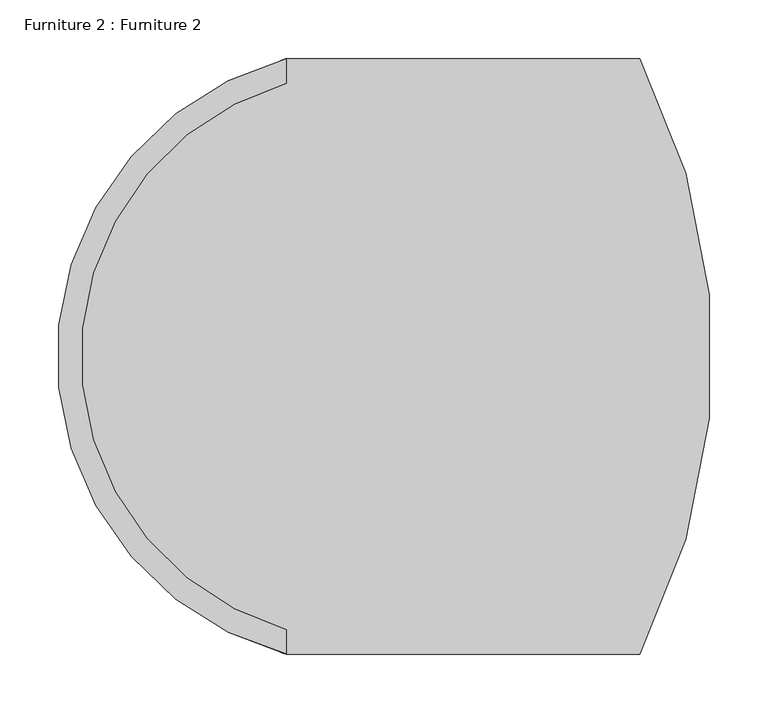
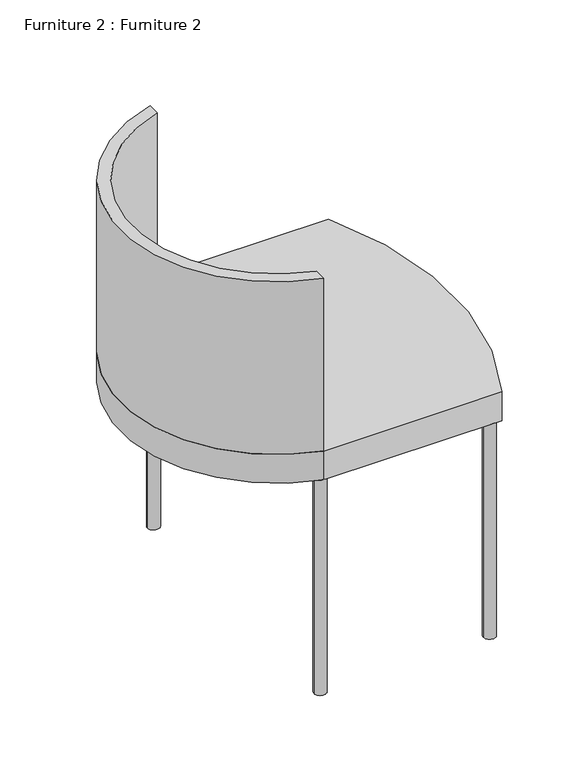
"""IFC4 building model written with IfcOpenShell, lengths in millimetres: furniture geometry, Furniture 2 : Furniture 2."""

from ifc_helpers import new_model, si_unit, point, frame, frame_2d, origin, place, context, project, spatial, polyline, circle_curve, trimmed, segment, composite_curve, outline, extrude, source, transform, mapped, element, save


def furniture_2_furniture_2_741ce5a0(model_context):
    return source(origin(), model_context, "Body", "SweptSolid", [
        extrude(outline(composite_curve([segment(trimmed(circle_curve(frame_2d((-3061.3479482, 1605.2555648)), 10.3724162), [point((-3050.9755319, 1605.2555648))], [point((-3071.7203644, 1605.2555648))], False, "CARTESIAN"), True, "CONTINUOUS"), segment(trimmed(circle_curve(frame_2d((-3061.3479482, 1605.2555648)), 10.3724162), [point((-3071.7203644, 1605.2555648))], [point((-3050.9755319, 1605.2555648))], False, "CARTESIAN"), True, "CONTINUOUS")], self_intersect=False)), frame((0.0, 0.0, 6510.0), z_axis=(0.0, 0.0, 1.0), x_axis=(1.0, 0.0, 0.0)), (0.0, 0.0, 1.0), 382.3163307),
        extrude(outline(composite_curve([segment(trimmed(circle_curve(frame_2d((-3061.3479482, 2090.2168417)), 10.3724162), [point((-3050.9755319, 2090.2168417))], [point((-3071.7203644, 2090.2168417))], False, "CARTESIAN"), True, "CONTINUOUS"), segment(trimmed(circle_curve(frame_2d((-3061.3479482, 2090.2168417)), 10.3724162), [point((-3071.7203644, 2090.2168417))], [point((-3050.9755319, 2090.2168417))], False, "CARTESIAN"), True, "CONTINUOUS")], self_intersect=False)), frame((0.0, 0.0, 6510.0), z_axis=(0.0, 0.0, 1.0), x_axis=(1.0, 0.0, 0.0)), (0.0, 0.0, 1.0), 382.3163307),
        extrude(outline(composite_curve([segment(trimmed(circle_curve(frame_2d((-2776.3479482, 1605.2555648)), 10.3724162), [point((-2765.9755319, 1605.2555648))], [point((-2786.7203644, 1605.2555648))], False, "CARTESIAN"), True, "CONTINUOUS"), segment(trimmed(circle_curve(frame_2d((-2776.3479482, 1605.2555648)), 10.3724162), [point((-2786.7203644, 1605.2555648))], [point((-2765.9755319, 1605.2555648))], False, "CARTESIAN"), True, "CONTINUOUS")], self_intersect=False)), frame((0.0, 0.0, 6510.0), z_axis=(0.0, 0.0, 1.0), x_axis=(1.0, 0.0, 0.0)), (0.0, 0.0, 1.0), 382.3163307),
        extrude(outline(composite_curve([segment(trimmed(circle_curve(frame_2d((-2776.3479482, 2090.2168417)), 10.3724162), [point((-2765.9755319, 2090.2168417))], [point((-2786.7203644, 2090.2168417))], False, "CARTESIAN"), True, "CONTINUOUS"), segment(trimmed(circle_curve(frame_2d((-2776.3479482, 2090.2168417)), 10.3724162), [point((-2786.7203644, 2090.2168417))], [point((-2765.9755319, 2090.2168417))], False, "CARTESIAN"), True, "CONTINUOUS")], self_intersect=False)), frame((0.0, 0.0, 6510.0), z_axis=(0.0, 0.0, 1.0), x_axis=(1.0, 0.0, 0.0)), (0.0, 0.0, 1.0), 382.3163307),
        extrude(outline(composite_curve([segment(trimmed(circle_curve(frame_2d((-2994.6145845, 1847.7362032)), 261.5110114), [point((-3061.3479482, 1594.8831485))], [point((-3061.3479482, 2100.5892579))], False, "CARTESIAN"), True, "CONTINUOUS"), segment(polyline([(-3061.3479482, 2100.5892579), (-2761.3479482, 2100.5892579)]), True, "CONTINUOUS"), segment(trimmed(circle_curve(frame_2d((-3248.9582299, 1847.7362032)), 549.2708386), [point((-2761.3479482, 2100.5892579))], [point((-2761.3479482, 1594.8831485))], False, "CARTESIAN"), True, "CONTINUOUS"), segment(polyline([(-2761.3479482, 1594.8831485), (-3061.3479482, 1594.8831485)]), True, "CONTINUOUS")], self_intersect=False)), frame((0.0, 0.0, 6892.3163307), z_axis=(0.0, 0.0, 1.0), x_axis=(1.0, 0.0, 0.0)), (0.0, 0.0, 1.0), 50.9506952),
        extrude(outline(composite_curve([segment(trimmed(circle_curve(frame_2d((-2994.6145845, 1847.7362032)), 261.5110114), [point((-3061.3479482, 1594.8831485))], [point((-3061.3479482, 2100.5892579))], False, "CARTESIAN"), True, "CONTINUOUS"), segment(polyline([(-3061.3479482, 2100.5892579), (-3061.3479482, 2079.8444254)]), True, "CONTINUOUS"), segment(trimmed(circle_curve(frame_2d((-2994.6145845, 1847.7362032)), 241.5110114), [point((-3061.3479482, 2079.8444254))], [point((-3061.3479482, 1615.627981))], True, "CARTESIAN"), True, "CONTINUOUS"), segment(polyline([(-3061.3479482, 1615.627981), (-3061.3479482, 1594.8831485)]), True, "CONTINUOUS")], self_intersect=False)), frame((0.0, 0.0, 6892.3163307), z_axis=(0.0, 0.0, 1.0), x_axis=(1.0, 0.0, 0.0)), (0.0, 0.0, 1.0), 357.7474663),
    ])


if __name__ == "__main__":
    model = new_model("IFC4")
    model_context = context("Model", 3, world=origin())
    ifc_project = project(units=[si_unit("LENGTHUNIT", "METRE", prefix="MILLI")], contexts=[model_context])
    site = spatial("IfcSite", under=ifc_project)
    building = spatial("IfcBuilding", under=site)
    placement = place(None, origin())
    furniture_2_furniture_2_shape = furniture_2_furniture_2_741ce5a0(model_context)
    element("IfcFurniture", 1, ObjectType="Furniture 2 : Furniture 2", at=placement, inside=building, context=model_context, shape_type="MappedRepresentation", body=[
        mapped(furniture_2_furniture_2_shape, transform((0.0, 0.0, 0.0), x_axis=(1.0, 0.0, 0.0), y_axis=(0.0, 1.0, 0.0), z_axis=(0.0, 0.0, 1.0))),
    ])
    save(model, "model.ifc")
